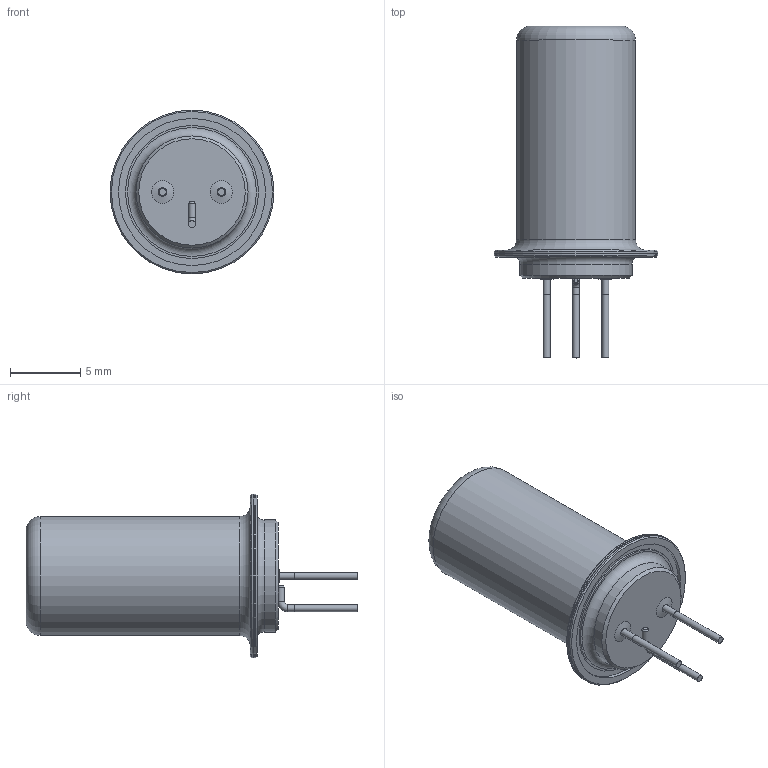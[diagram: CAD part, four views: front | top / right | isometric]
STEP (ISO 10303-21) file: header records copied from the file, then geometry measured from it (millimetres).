
FILE_DESCRIPTION (( 'STEP AP214' ), '1' );
FILE_NAME ('Ï1.49à.STEP', '2015-07-18T16:52:18', ( 'Michael' ), ( '' ), 'SwSTEP 2.0', 'SolidWorks 2014', '' );
FILE_SCHEMA (( 'AUTOMOTIVE_DESIGN' ));
Length unit declared in the file: millimetre
Products named in the file (6): ﾂ鏆鮏 肬隆; 扻豵鵨; Âñòàâêà; Ïð.Âûâîä; Ï1.49à; Âûâîä ïðÿìîé
Assembly tree (9 placements, depth 2):
  Ï1.49à
    扻豵鵨
    Âñòàâêà  x2
    ﾂ鏆鮏 肬隆
    Âûâîä ïðÿìîé  x2
    Ïð.Âûâîä  x3
Bounding box: 11.7 x 23.7 x 11.7 mm (x, y, z)
Volume: 1034.7 mm3; surface area: 767.5 mm2
Topology: 9 solids, 9 shells, 53 faces, 76 edges, 47 vertices
Faces by surface type: plane 24, cylinder 17, cone 8, torus 4
Full cylindrical faces by diameter (mm): 0.5 x7, 1.6 x4, 8 x1, 8.5 x1, 9.5 x1, 10.5 x1, 11.7 x2
Entity records: 1028 total; most frequent: DIRECTION 174, CARTESIAN_POINT 122, AXIS2_PLACEMENT_3D 87, EDGE_LOOP 70, ORIENTED_EDGE 70, FACE_OUTER_BOUND 57, ADVANCED_FACE 40, EDGE_CURVE 35
